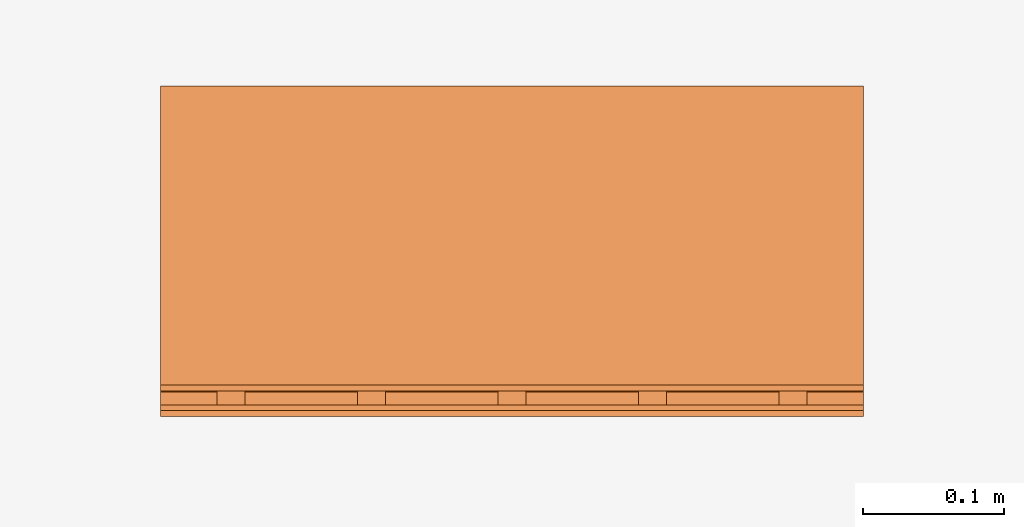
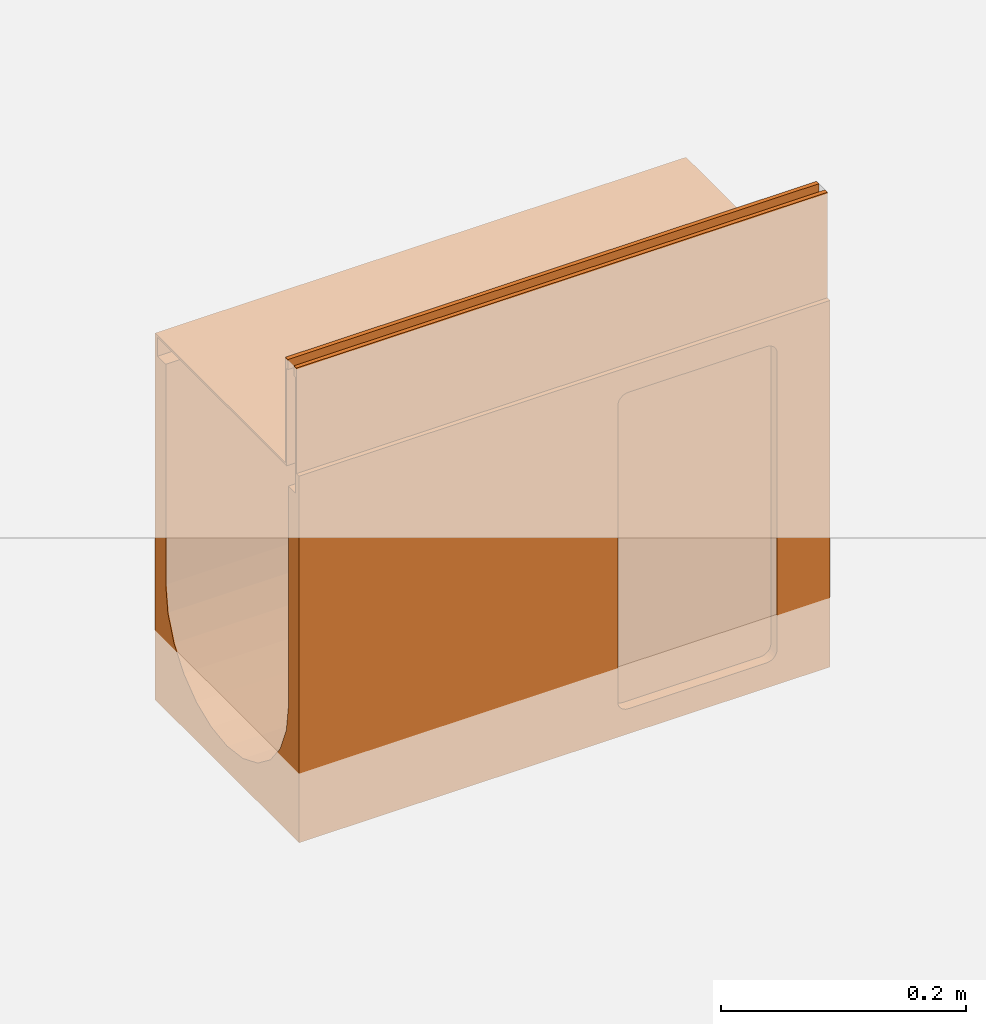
# One storey, part 2 of 2: 1 proxy.
"""IFC2X3 building model written with IfcOpenShell, lengths in millimetres."""

from ifc_helpers import new_model, entity, si_unit, converted_unit, direction, frame, origin, place, context, subcontext, project, spatial, faceted_brep, source, transform, mapped, material, material_list, element, save


model = new_model("IFC2X3")

# Units and contexts
model_context = context("Model", 3, precision=1e-06, world=origin(), true_north=direction((2.0, 6.12303176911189e-17, 1.0)))
context_of_model = context(None, 3, precision=1e-06, world=origin(), true_north=direction((2.0, 6.12303176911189e-17, 1.0)))
body_context = subcontext(model_context, "Body", "Model", "MODEL_VIEW")
ifc_project = project(units=[si_unit("LENGTHUNIT", "METRE", prefix="MILLI"), si_unit("AREAUNIT", "SQUARE_METRE", prefix="MILLI"), si_unit("VOLUMEUNIT", "CUBIC_METRE", prefix="MILLI"), converted_unit("PLANEANGLEUNIT", "DEGREE", entity("IfcRatioMeasure", 0.0174532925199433), si_unit("PLANEANGLEUNIT", "RADIAN"), dimensions=[0, 0, 0, 0, 0, 0, 0]), si_unit("TIMEUNIT", "SECOND")], contexts=[model_context, context_of_model])

# Site, building, storey
site_placement = place(None, origin())
site = spatial("IfcSite", under=ifc_project, at=site_placement, Name="Default", CompositionType="ELEMENT")
building_placement = place(site_placement, origin())
building = spatial("IfcBuilding", under=site, at=building_placement, CompositionType="ELEMENT")
storey_placement = place(building_placement, origin())
storey = spatial("IfcBuildingStorey", under=building, at=storey_placement, Name="Level 1", CompositionType="ELEMENT", Elevation=0.0)

# Proxy
ifc_material_1 = material(Name="Stainless Steel (F)")
ifc_material_2 = material(Name="Vienite® Synthetic Resin Concrete")
ifc_material_list = material_list([ifc_material_1, ifc_material_2])
shared_shape = source(origin(), body_context, "Body", "Brep", [
    faceted_brep([(113.250000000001, 40.0, -107.0), (113.250000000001, 42.0, -109.0), (113.250000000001, 58.0, -109.0), (113.250000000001, 60.0, -107.0), (113.250000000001, 42.0, -123.499999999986), (113.250000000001, 40.0, -125.499999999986), (113.250000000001, 58.0, -123.499999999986), (113.250000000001, 60.0, -125.499999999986), (-111.249999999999, 40.0, -125.499999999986), (-111.249999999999, 42.0, -123.499999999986), (-111.249999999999, 58.0, -123.499999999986), (-111.249999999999, 60.0, -125.499999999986), (-111.249999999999, 42.0, -109.0), (-111.249999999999, 40.0, -107.0), (-111.249999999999, 58.0, -109.0), (-111.249999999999, 60.0, -107.0)], [[[0, 1, 2, 3]], [[4, 1, 0, 5]], [[3, 2, 6, 7]], [[6, 4, 5, 7]], [[8, 9, 10, 11]], [[12, 9, 8, 13]], [[11, 10, 14, 15]], [[14, 12, 13, 15]], [[8, 5, 0, 13]], [[7, 5, 8, 11]], [[15, 3, 7, 11]], [[0, 3, 15, 13]], [[1, 4, 9, 12]], [[2, 1, 12, 14]], [[10, 6, 2, 14]], [[4, 6, 10, 9]]]),
    faceted_brep([(113.250000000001, 140.0, -107.0), (113.250000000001, 142.0, -109.0), (113.250000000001, 158.0, -109.0), (113.250000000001, 160.0, -107.0), (113.250000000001, 142.0, -123.499999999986), (113.250000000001, 140.0, -125.499999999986), (113.250000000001, 158.0, -123.499999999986), (113.250000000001, 160.0, -125.499999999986), (-111.249999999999, 140.0, -125.499999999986), (-111.249999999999, 142.0, -123.499999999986), (-111.249999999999, 158.0, -123.499999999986), (-111.249999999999, 160.0, -125.499999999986), (-111.249999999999, 142.0, -109.0), (-111.249999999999, 140.0, -107.0), (-111.249999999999, 158.0, -109.0), (-111.249999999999, 160.0, -107.0)], [[[0, 1, 2, 3]], [[4, 1, 0, 5]], [[3, 2, 6, 7]], [[6, 4, 5, 7]], [[8, 9, 10, 11]], [[12, 9, 8, 13]], [[11, 10, 14, 15]], [[14, 12, 13, 15]], [[8, 5, 0, 13]], [[7, 5, 8, 11]], [[15, 3, 7, 11]], [[0, 3, 15, 13]], [[1, 4, 9, 12]], [[2, 1, 12, 14]], [[10, 6, 2, 14]], [[4, 6, 10, 9]]]),
    faceted_brep([(113.250000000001, 240.0, -107.0), (113.250000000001, 242.0, -109.0), (113.250000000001, 258.0, -109.0), (113.250000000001, 260.0, -107.0), (113.250000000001, 242.0, -123.499999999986), (113.250000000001, 240.0, -125.499999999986), (113.250000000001, 258.0, -123.499999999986), (113.250000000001, 260.0, -125.499999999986), (-111.249999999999, 240.0, -125.499999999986), (-111.249999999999, 242.0, -123.499999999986), (-111.249999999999, 258.0, -123.499999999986), (-111.249999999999, 260.0, -125.499999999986), (-111.249999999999, 242.0, -109.0), (-111.249999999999, 240.0, -107.0), (-111.249999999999, 258.0, -109.0), (-111.249999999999, 260.0, -107.0)], [[[0, 1, 2, 3]], [[4, 1, 0, 5]], [[3, 2, 6, 7]], [[6, 4, 5, 7]], [[8, 9, 10, 11]], [[12, 9, 8, 13]], [[11, 10, 14, 15]], [[14, 12, 13, 15]], [[8, 5, 0, 13]], [[7, 5, 8, 11]], [[15, 3, 7, 11]], [[0, 3, 15, 13]], [[1, 4, 9, 12]], [[2, 1, 12, 14]], [[10, 6, 2, 14]], [[4, 6, 10, 9]]]),
    faceted_brep([(113.250000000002, 340.0, -107.0), (113.250000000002, 342.0, -109.0), (113.250000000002, 358.0, -109.0), (113.250000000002, 360.0, -107.0), (113.250000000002, 342.0, -123.499999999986), (113.250000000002, 340.0, -125.499999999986), (113.250000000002, 358.0, -123.499999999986), (113.250000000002, 360.0, -125.499999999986), (-111.249999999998, 340.0, -125.499999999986), (-111.249999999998, 342.0, -123.499999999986), (-111.249999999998, 358.0, -123.499999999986), (-111.249999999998, 360.0, -125.499999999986), (-111.249999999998, 342.0, -109.0), (-111.249999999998, 340.0, -107.0), (-111.249999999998, 358.0, -109.0), (-111.249999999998, 360.0, -107.0)], [[[0, 1, 2, 3]], [[4, 1, 0, 5]], [[3, 2, 6, 7]], [[6, 4, 5, 7]], [[8, 9, 10, 11]], [[12, 9, 8, 13]], [[11, 10, 14, 15]], [[14, 12, 13, 15]], [[8, 5, 0, 13]], [[7, 5, 8, 11]], [[15, 3, 7, 11]], [[0, 3, 15, 13]], [[1, 4, 9, 12]], [[2, 1, 12, 14]], [[10, 6, 2, 14]], [[4, 6, 10, 9]]]),
    faceted_brep([(113.250000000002, 440.0, -107.0), (113.250000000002, 442.0, -109.0), (113.250000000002, 458.0, -109.0), (113.250000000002, 460.0, -107.0), (113.250000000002, 442.0, -123.499999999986), (113.250000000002, 440.0, -125.499999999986), (113.250000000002, 458.0, -123.499999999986), (113.250000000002, 460.0, -125.499999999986), (-111.249999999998, 440.0, -125.499999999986), (-111.249999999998, 442.0, -123.499999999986), (-111.249999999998, 458.0, -123.499999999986), (-111.249999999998, 460.0, -125.499999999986), (-111.249999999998, 442.0, -109.0), (-111.249999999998, 440.0, -107.0), (-111.249999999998, 458.0, -109.0), (-111.249999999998, 460.0, -107.0)], [[[0, 1, 2, 3]], [[4, 1, 0, 5]], [[3, 2, 6, 7]], [[6, 4, 5, 7]], [[8, 9, 10, 11]], [[12, 9, 8, 13]], [[11, 10, 14, 15]], [[14, 12, 13, 15]], [[8, 5, 0, 13]], [[7, 5, 8, 11]], [[15, 3, 7, 11]], [[0, 3, 15, 13]], [[1, 4, 9, 12]], [[2, 1, 12, 14]], [[10, 6, 2, 14]], [[4, 6, 10, 9]]]),
    faceted_brep([(-97.2500000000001, 0.0, -10.0), (-97.2500000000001, 0.0, -107.0), (-95.25, 0.0, -105.0), (-95.25, 0.0, 0.0), (-99.2500000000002, 0.0, 0.0), (-99.2500000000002, 0.0, -10.0), (113.250000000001, 0.0, -107.0), (113.250000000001, 0.0, -105.0), (-95.25, 500.0, -105.0), (113.250000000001, 500.0, -105.0), (113.250000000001, 500.0, -107.0), (-97.2500000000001, 500.0, -107.0), (-97.2500000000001, 500.0, -10.0), (-95.25, 500.0, 0.0), (-99.2500000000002, 500.0, -10.0), (-99.2500000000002, 500.0, 0.0)], [[[0, 1, 2, 3]], [[4, 5, 0, 3]], [[6, 7, 2, 1]], [[8, 9, 10, 11]], [[12, 13, 8, 11]], [[12, 14, 15, 13]], [[12, 0, 5, 14]], [[1, 0, 12, 11]], [[6, 1, 11, 10]], [[9, 7, 6, 10]], [[8, 2, 7, 9]], [[3, 2, 8, 13]], [[4, 3, 13, 15]], [[5, 4, 15, 14]]]),
    faceted_brep([(-109.25, 500.0, 0.0), (-109.25, 500.0, -10.0), (-111.25, 500.0, -10.0), (-113.25, 500.0, 0.0), (-113.25, 500.0, -125.499999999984), (-111.25, 500.0, -125.499999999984), (-111.25, 0.0, -10.0), (-113.25, 0.0, 0.0), (-113.25, 0.0, -125.499999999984), (-111.25, 0.0, -125.499999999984), (-109.25, 0.0, 0.0), (-109.25, 0.0, -10.0)], [[[0, 1, 2, 3]], [[4, 3, 2, 5]], [[6, 7, 8, 9]], [[10, 7, 6, 11]], [[5, 9, 8, 4]], [[6, 9, 5, 2]], [[1, 11, 6, 2]], [[10, 11, 1, 0]], [[7, 10, 0, 3]], [[4, 8, 7, 3]]]),
    faceted_brep([(107.5, 57.4118095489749, -444.659258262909), (107.5, 60.0, -445.0), (107.5, 50.0, -435.0), (107.5, 50.3407417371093, -437.588190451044), (107.5, 55.0, -443.660254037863), (107.5, 52.9289321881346, -442.071067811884), (107.5, 51.3397459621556, -440.0), (107.5, 200.0, -435.0), (107.5, 190.0, -445.0), (107.5, 192.588190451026, -444.659258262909), (107.5, 195.0, -443.660254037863), (107.5, 197.071067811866, -442.071067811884), (107.5, 198.660254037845, -440.0), (107.5, 199.659258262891, -437.588190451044), (107.5, 200.0, -140.0), (107.5, 50.0, -140.0), (107.5, 50.3407417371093, -137.411809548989), (107.5, 60.0, -130.0), (107.5, 52.9289321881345, -132.928932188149), (107.5, 51.3397459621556, -135.0), (107.5, 55.0, -131.33974596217), (107.5, 57.4118095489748, -130.340741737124), (107.5, 190.0, -130.0), (107.5, 199.659258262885, -137.411809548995), (107.5, 198.660254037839, -135.0), (107.5, 195.0, -131.339745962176), (107.5, 192.58819045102, -130.34074173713), (107.5, 197.07106781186, -132.928932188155), (117.5, 50.0, -140.0), (117.5, 50.0, -435.0), (117.5, 60.0, -130.0), (117.5, 190.0, -130.0), (117.5, 200.0, -140.0), (117.5, 200.0, -435.0), (117.5, 190.0, -445.0), (117.5, 60.0, -445.0), (113.25, 500.0, -105.0), (117.5, 500.0, -105.0), (113.25, 500.0, -125.500000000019), (100.0, 500.0, -345.0), (100.0, 500.0, -125.5), (117.5, 500.0, -470.0), (-117.5, 500.0, -105.0), (-113.25, 500.0, -105.0), (-113.25, 500.0, -125.500000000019), (-100.0, 500.0, -345.0), (-117.5, 500.0, -470.0), (-100.0, 500.0, -125.500000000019), (96.5925826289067, 500.0, -370.881904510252), (70.7106781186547, 500.0, -415.710678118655), (86.6025403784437, 500.0, -395.0), (50.0, 500.0, -431.602540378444), (0.0, 500.0, -445.0), (25.8819045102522, 500.0, -441.592582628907), (-86.6025403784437, 500.0, -395.0), (-70.7106781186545, 500.0, -415.710678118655), (-96.5925826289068, 500.0, -370.881904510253), (-50.0, 500.0, -431.602540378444), (-25.8819045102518, 500.0, -441.592582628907), (117.5, 0.0, -470.0), (25.8819045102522, 0.0, -441.592582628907), (0.0, 0.0, -445.0), (50.0, 0.0, -431.602540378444), (70.7106781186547, 0.0, -415.710678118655), (86.6025403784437, 0.0, -395.0), (96.5925826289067, 0.0, -370.881904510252), (-25.8819045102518, 0.0, -441.592582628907), (-117.5, 0.0, -470.0), (-50.0, 0.0, -431.602540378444), (-70.7106781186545, 0.0, -415.710678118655), (-86.6025403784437, 0.0, -395.0), (-96.5925826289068, 0.0, -370.881904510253), (100.0, 0.0, -345.0), (100.0, 0.0, -125.5), (113.25, 0.0, -125.500000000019), (117.5, 0.0, -105.0), (113.25, 0.0, -105.0), (-100.0, 0.0, -345.0), (-100.0, 0.0, -125.500000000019), (-113.25, 0.0, -125.500000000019), (-113.25, 0.0, -105.0), (-117.5, 0.0, -105.0), (-117.5, 51.3397459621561, -135.0), (-117.5, 50.3407417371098, -137.411809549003), (-117.5, 52.928932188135, -132.928932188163), (-117.5, 50.0, -140.0), (-117.5, 50.0, -435.0), (-117.5, 60.0, -130.0), (-117.5, 57.4118095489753, -130.340741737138), (-117.5, 55.0, -131.339745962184), (-117.5, 190.0, -130.0), (-117.5, 50.3407417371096, -437.588190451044), (-117.5, 51.3397459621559, -440.0), (-117.5, 52.9289321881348, -442.071067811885), (-117.5, 55.0, -443.660254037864), (-117.5, 57.411809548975, -444.65925826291), (-117.5, 60.0, -445.0), (-117.5, 190.0, -445.0), (-117.5, 192.588190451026, -130.340741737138), (-117.5, 197.071067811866, -132.928932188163), (-117.5, 195.0, -131.339745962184), (-117.5, 198.660254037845, -135.0), (-117.5, 199.659258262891, -137.411809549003), (-117.5, 200.0, -140.0), (-117.5, 195.0, -443.660254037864), (-117.5, 197.071067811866, -442.071067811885), (-117.5, 192.588190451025, -444.65925826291), (-117.5, 199.659258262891, -437.588190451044), (-117.5, 200.0, -435.0), (-117.5, 198.660254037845, -440.0), (-20.7055236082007, 47.7259338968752, -470.0), (0.0, 45.0, -470.0), (-40.0, 55.7179676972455, -470.0), (-77.2740661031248, 104.294476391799, -470.0), (-69.2820323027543, 85.0, -470.0), (-56.5685424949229, 68.4314575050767, -470.0), (-80.0, 125.0, -470.0), (20.7055236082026, 47.7259338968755, -470.0), (40.0, 55.7179676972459, -470.0), (56.5685424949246, 68.4314575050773, -470.0), (69.2820323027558, 85.0, -470.0), (77.2740661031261, 104.294476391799, -470.0), (80.0, 125.0, -470.0), (77.2740661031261, 145.705523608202, -470.0), (-77.2740661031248, 145.705523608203, -470.0), (-69.2820323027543, 165.0, -470.0), (-56.5685424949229, 181.568542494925, -470.0), (-40.0, 194.282032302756, -470.0), (-20.7055236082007, 202.274066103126, -470.0), (0.0, 205.0, -470.0), (69.2820323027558, 165.0, -470.0), (56.5685424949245, 181.568542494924, -470.0), (20.7055236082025, 202.274066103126, -470.0), (40.0, 194.282032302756, -470.0), (117.5, 51.3397459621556, -440.0), (117.5, 50.3407417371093, -437.588190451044), (117.5, 52.9289321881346, -442.071067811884), (117.5, 57.4118095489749, -444.659258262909), (117.5, 55.0, -443.660254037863), (117.5, 50.3407417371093, -137.411809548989), (117.5, 51.3397459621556, -135.0), (117.5, 52.9289321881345, -132.928932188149), (117.5, 55.0, -131.33974596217), (117.5, 57.4118095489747, -130.340741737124), (117.5, 192.588190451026, -444.659258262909), (117.5, 197.071067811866, -442.071067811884), (117.5, 195.0, -443.660254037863), (117.5, 198.660254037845, -440.0), (117.5, 199.659258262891, -437.588190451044), (117.5, 195.0, -131.33974596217), (117.5, 197.071067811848, -132.928932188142), (117.5, 192.588190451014, -130.340741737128), (117.5, 199.659258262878, -137.411809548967), (117.5, 198.660254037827, -135.0), (-107.5, 198.660254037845, -135.0), (-107.5, 199.659258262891, -137.411809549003), (-107.5, 200.0, -140.0), (-107.5, 197.071067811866, -132.928932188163), (-107.5, 190.0, -130.0), (-107.5, 192.588190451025, -130.340741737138), (-107.5, 195.0, -131.339745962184), (-107.5, 50.0, -140.0), (-107.5, 200.0, -435.0), (-107.5, 50.0, -435.0), (-107.5, 199.659258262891, -437.588190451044), (-107.5, 198.660254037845, -440.0), (-107.5, 190.0, -445.0), (-107.5, 195.0, -443.660254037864), (-107.5, 197.071067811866, -442.071067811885), (-107.5, 192.588190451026, -444.65925826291), (-107.5, 60.0, -445.0), (-107.5, 57.4118095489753, -130.340741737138), (-107.5, 60.0, -130.0), (-107.5, 52.928932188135, -132.928932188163), (-107.5, 55.0, -131.339745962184), (-107.5, 51.3397459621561, -135.0), (-107.5, 50.3407417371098, -137.411809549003), (-107.5, 57.4118095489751, -444.65925826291), (-107.5, 55.0, -443.660254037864), (-107.5, 50.3407417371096, -437.588190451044), (-107.5, 52.9289321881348, -442.071067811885), (-107.5, 51.3397459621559, -440.0), (-56.5685424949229, 181.568542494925, -460.0), (-40.0, 194.282032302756, -460.0), (-20.7055236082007, 202.274066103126, -460.0), (40.0, 194.282032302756, -460.0), (-80.0, 125.0, -460.0), (-77.2740661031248, 145.705523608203, -460.0), (-69.2820323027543, 165.0, -460.0), (77.2740661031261, 145.705523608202, -460.0), (0.0, 205.0, -460.0), (20.7055236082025, 202.274066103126, -460.0), (56.5685424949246, 181.568542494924, -460.0), (69.2820323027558, 165.0, -460.0), (-77.2740661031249, 104.294476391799, -460.0), (80.0, 125.0, -460.0), (-56.5685424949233, 68.4314575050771, -460.0), (-69.2820323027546, 85.0, -460.0), (-40.0, 55.7179676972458, -460.0), (0.0, 45.0, -460.0), (-20.7055236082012, 47.7259338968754, -460.0), (40.0, 55.7179676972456, -460.0), (77.2740661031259, 104.294476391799, -460.0), (69.2820323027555, 85.0, -460.0), (56.5685424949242, 68.4314575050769, -460.0), (20.7055236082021, 47.7259338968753, -460.0)], [[[0, 1, 2, 3]], [[4, 0, 5]], [[3, 6, 5, 0]], [[7, 2, 1, 8]], [[9, 10, 11, 8]], [[11, 12, 13, 7]], [[7, 8, 11]], [[2, 7, 14, 15]], [[16, 15, 17, 18]], [[19, 16, 18]], [[20, 18, 17, 21]], [[22, 17, 15, 14]], [[14, 23, 24, 22]], [[25, 26, 22, 24]], [[25, 24, 27]], [[2, 15, 28, 29]], [[30, 17, 22, 31]], [[32, 14, 7, 33]], [[34, 8, 1, 35]], [[36, 37, 38]], [[38, 39, 40]], [[39, 38, 37, 41]], [[42, 43, 44]], [[42, 44, 45, 46]], [[47, 45, 44]], [[39, 41, 48]], [[49, 50, 41]], [[51, 49, 41]], [[52, 53, 41, 46]], [[41, 53, 51]], [[50, 48, 41]], [[54, 55, 46]], [[56, 54, 46]], [[57, 58, 46]], [[46, 58, 52]], [[57, 46, 55]], [[56, 46, 45]], [[59, 60, 61]], [[60, 59, 62]], [[63, 62, 59]], [[64, 63, 59]], [[59, 65, 64]], [[61, 66, 67, 59]], [[67, 66, 68]], [[69, 70, 67]], [[68, 69, 67]], [[67, 70, 71]], [[72, 65, 59]], [[73, 72, 74]], [[74, 75, 76]], [[75, 74, 72, 59]], [[77, 78, 79]], [[71, 77, 67]], [[79, 80, 81]], [[77, 79, 81, 67]], [[43, 80, 79, 44]], [[81, 80, 43, 42]], [[81, 82, 83]], [[82, 81, 84]], [[81, 83, 85, 86]], [[87, 88, 81]], [[89, 84, 81]], [[88, 89, 81]], [[90, 87, 81, 42]], [[86, 91, 67, 81]], [[67, 92, 93]], [[92, 67, 91]], [[93, 94, 67]], [[95, 96, 67]], [[94, 95, 67]], [[67, 96, 97]], [[98, 90, 42]], [[99, 100, 42]], [[98, 42, 100]], [[101, 42, 102]], [[42, 101, 99]], [[103, 102, 42, 46]], [[104, 105, 46]], [[97, 106, 46, 67]], [[104, 46, 106]], [[46, 107, 108, 103]], [[109, 46, 105]], [[46, 109, 107]], [[67, 110, 111, 59]], [[110, 67, 112]], [[113, 114, 67]], [[115, 112, 67]], [[114, 115, 67]], [[67, 116, 113]], [[59, 117, 118]], [[117, 59, 111]], [[59, 118, 119]], [[119, 120, 59]], [[121, 122, 59]], [[120, 121, 59]], [[59, 122, 123, 41]], [[124, 116, 67, 46]], [[125, 124, 46]], [[126, 46, 127]], [[46, 126, 125]], [[128, 127, 46]], [[129, 128, 46, 41]], [[130, 131, 41]], [[123, 130, 41]], [[132, 129, 41]], [[133, 41, 131]], [[41, 133, 132]], [[59, 134, 135]], [[134, 59, 136]], [[59, 135, 29, 28]], [[35, 137, 59]], [[138, 136, 59]], [[137, 138, 59]], [[34, 35, 59, 41]], [[28, 139, 75, 59]], [[75, 140, 141]], [[140, 75, 139]], [[141, 142, 75]], [[143, 30, 75]], [[142, 143, 75]], [[75, 30, 31]], [[144, 34, 41]], [[145, 146, 41]], [[144, 41, 146]], [[147, 41, 148]], [[41, 147, 145]], [[33, 148, 41, 37]], [[149, 150, 37]], [[31, 151, 37, 75]], [[149, 37, 151]], [[37, 152, 32, 33]], [[153, 37, 150]], [[37, 153, 152]], [[76, 75, 37, 36]], [[38, 74, 76, 36]], [[40, 73, 74, 38]], [[39, 72, 73, 40]], [[78, 77, 45, 47]], [[79, 78, 47, 44]], [[50, 64, 65, 48]], [[48, 65, 72, 39]], [[51, 62, 63, 49]], [[49, 63, 64, 50]], [[53, 60, 62, 51]], [[60, 53, 52, 61]], [[57, 68, 66, 58]], [[55, 69, 68, 57]], [[56, 71, 70, 54]], [[54, 70, 69, 55]], [[45, 77, 71, 56]], [[58, 66, 61, 52]], [[154, 155, 156, 157]], [[157, 158, 159, 160]], [[158, 157, 156, 161]], [[161, 156, 162, 163]], [[162, 164, 165, 166]], [[167, 165, 168]], [[167, 169, 166, 165]], [[163, 162, 166, 170]], [[161, 171, 172, 158]], [[173, 174, 171, 175]], [[176, 175, 171, 161]], [[170, 177, 178, 163]], [[179, 163, 180, 181]], [[178, 180, 163]], [[85, 161, 163, 86]], [[90, 158, 172, 87]], [[108, 162, 156, 103]], [[96, 170, 166, 97]], [[179, 91, 86, 163]], [[181, 92, 91, 179]], [[92, 181, 180, 93]], [[178, 94, 93, 180]], [[177, 95, 94, 178]], [[95, 177, 170, 96]], [[169, 106, 97, 166]], [[167, 104, 106, 169]], [[104, 167, 168, 105]], [[165, 109, 105, 168]], [[164, 107, 109, 165]], [[107, 164, 162, 108]], [[155, 102, 103, 156]], [[154, 101, 102, 155]], [[101, 154, 157, 99]], [[160, 100, 99, 157]], [[159, 98, 100, 160]], [[98, 159, 158, 90]], [[171, 88, 87, 172]], [[174, 89, 88, 171]], [[89, 174, 173, 84]], [[175, 82, 84, 173]], [[176, 83, 82, 175]], [[83, 176, 161, 85]], [[16, 139, 28, 15]], [[19, 140, 139, 16]], [[140, 19, 18, 141]], [[20, 142, 141, 18]], [[21, 143, 142, 20]], [[143, 21, 17, 30]], [[26, 151, 31, 22]], [[25, 149, 151, 26]], [[149, 25, 27, 150]], [[24, 153, 150, 27]], [[23, 152, 153, 24]], [[152, 23, 14, 32]], [[13, 148, 33, 7]], [[12, 147, 148, 13]], [[147, 12, 11, 145]], [[10, 146, 145, 11]], [[9, 144, 146, 10]], [[144, 9, 8, 34]], [[0, 137, 35, 1]], [[4, 138, 137, 0]], [[138, 4, 5, 136]], [[6, 134, 136, 5]], [[3, 135, 134, 6]], [[135, 3, 2, 29]], [[182, 183, 184, 185]], [[182, 186, 187, 188]], [[186, 182, 185, 189]], [[184, 190, 191, 185]], [[185, 192, 193, 189]], [[194, 186, 189, 195]], [[196, 197, 194, 198]], [[199, 200, 198, 201]], [[195, 198, 194]], [[202, 203, 204, 201]], [[195, 202, 201, 198]], [[201, 205, 199]], [[189, 123, 122, 195]], [[193, 130, 123, 189]], [[185, 133, 131, 192]], [[192, 131, 130, 193]], [[191, 132, 133, 185]], [[132, 191, 190, 129]], [[184, 128, 129, 190]], [[183, 127, 128, 184]], [[188, 125, 126, 182]], [[182, 126, 127, 183]], [[187, 124, 125, 188]], [[124, 187, 186, 116]], [[194, 113, 116, 186]], [[197, 114, 113, 194]], [[198, 112, 115, 196]], [[196, 115, 114, 197]], [[200, 110, 112, 198]], [[110, 200, 199, 111]], [[205, 117, 111, 199]], [[201, 118, 117, 205]], [[203, 120, 119, 204]], [[204, 119, 118, 201]], [[202, 121, 120, 203]], [[202, 195, 122, 121]]]),
])
proxy_placement = place(storey_placement, frame((-24.5269790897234, 283.73832696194, 0.0), z_axis=(0.0, 0.0, 1.0), x_axis=(0.0, 1.0, 0.0)))
element("IfcBuildingElementProxy", 1, at=proxy_placement, inside=storey, material=ifc_material_list, Name="Civil-Drainage-Channel-ACO-MultiDrain-M200DS-Brickslot-Channel-System:24215 - No 20.1 Constant Depth Channel - 500mm LG - Invert Depth 340mm:24215 - No 20.1 Constant Depth Channel - 500mm LG - Invert Depth 340mm", ObjectType="24215 - No 20.1 Constant Depth Channel - 500mm LG - Invert Depth 340mm", CompositionType="ELEMENT", context=body_context, shape_type="MappedRepresentation", body=[
    mapped(shared_shape, transform((0.0, 0.0, 0.0), scale=1.0)),
])

save(model, "model.ifc")
